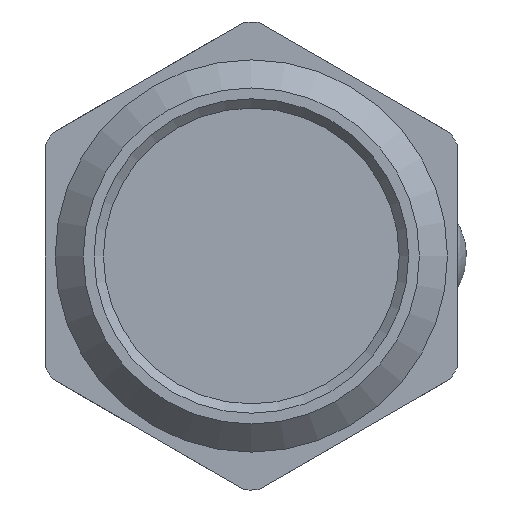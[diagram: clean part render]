
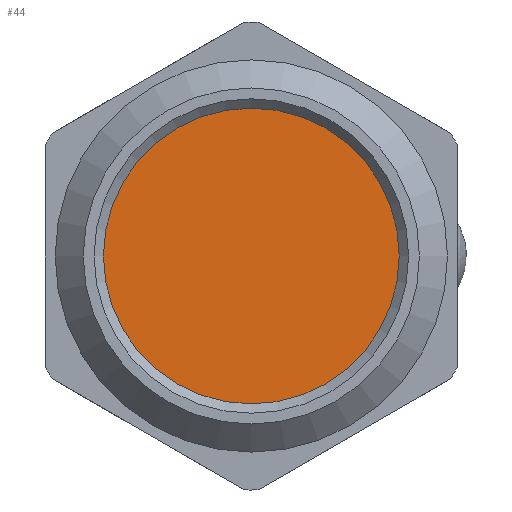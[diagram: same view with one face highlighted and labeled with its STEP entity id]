
A CAD part, front view. The second image highlights one B-rep face of the part: STEP entity #44.
In plain terms, the highlighted planar face has unit normal (0, -1, 0).
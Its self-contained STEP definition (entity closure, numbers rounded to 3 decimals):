
#44=ADVANCED_FACE('',(#118),#120,.T.);
#118=FACE_BOUND('',#119,.T.);
#119=EDGE_LOOP('',(#684));
#120=PLANE('',#121);
#121=AXIS2_PLACEMENT_3D('',#122,#123,#124);
#122=CARTESIAN_POINT('',(0.,-2.5,0.));
#123=DIRECTION('',(0.,-1.,0.));
#124=DIRECTION('',(1.,0.,0.));
#684=ORIENTED_EDGE('',*,*,#1020,.T.);
#1020=EDGE_CURVE('',#1188,#1188,#1189,.T.);
#1188=VERTEX_POINT('',#1470);
#1189=CIRCLE('',#1471,7.9);
#1470=CARTESIAN_POINT('',(7.9,-2.5,0.));
#1471=AXIS2_PLACEMENT_3D('',#1472,#1473,#1474);
#1472=CARTESIAN_POINT('',(0.,-2.5,0.));
#1473=DIRECTION('',(0.,-1.,0.));
#1474=DIRECTION('',(1.,0.,0.));
